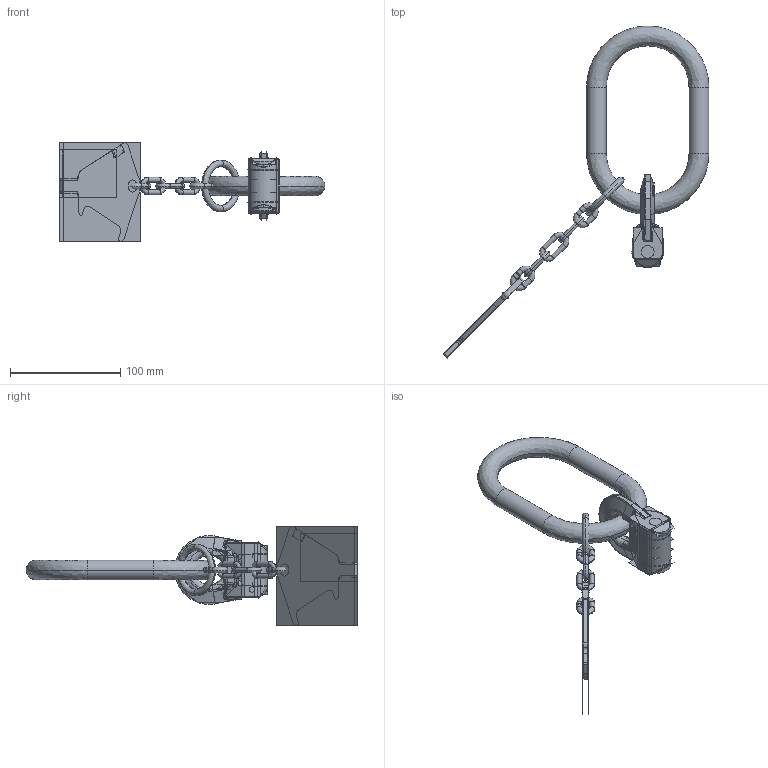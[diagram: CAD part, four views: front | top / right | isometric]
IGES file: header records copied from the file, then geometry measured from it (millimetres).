
Start section:  PTC IGES file: VAK-1-10_7100683_M34474-P-3.igs
Global section: file name: VAK-1-10_7100683_M34474-P-3.igs; native system: Pro/ENGINEER by Parametric Technology Corporation; preprocessor: 2010140; author: Andreas.Wendler; organization: Unknown; date: 20141013.151030; units: millimetre
Bounding box: 241.12 x 301.12 x 89.59 mm (x, y, z)
Volume: 185171.2 mm3; surface area: 259895 mm2
Topology: 9 solids, 9 shells, 1076 faces, 5298 edges, 6540 vertices
Faces by surface type: bspline 702, revolution 374
